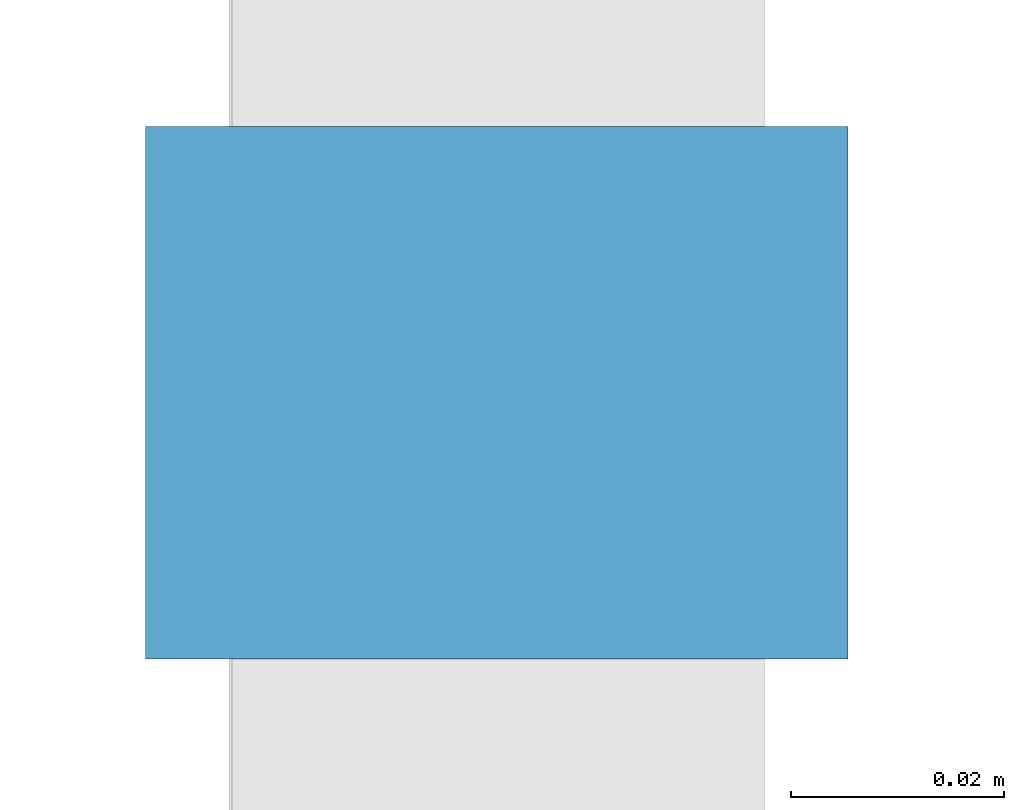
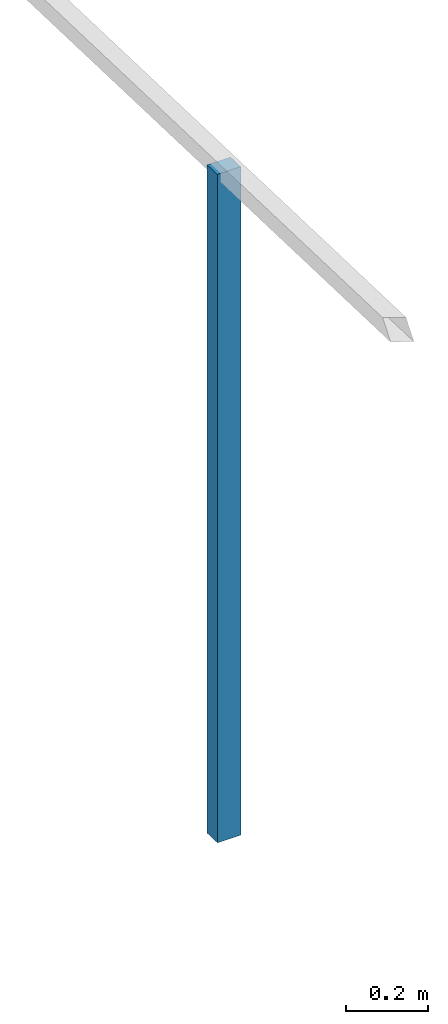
# One storey, part 46 of 91: 1 building element part, 1 element without a shape of its own.
"""IFC2X3 building model written with IfcOpenShell, lengths in metres."""

from ifc_helpers import new_model, entity, si_unit, converted_unit, derived_unit, money_unit, direction, frame, origin_with_axes, place, context, subcontext, project, spatial, faceted_brep, material, type_object, element, aggregate, save


model = new_model("IFC2X3")

# Units and contexts
model_context = context("Model", 3, precision=1e-05, world=origin_with_axes(), true_north=direction((0.0, 1.0)))
body_context = subcontext(model_context, "Body", "Model", "MODEL_VIEW")
ifc_project = project(units=[si_unit("LENGTHUNIT", "METRE"), si_unit("AREAUNIT", "SQUARE_METRE"), si_unit("VOLUMEUNIT", "CUBIC_METRE"), converted_unit("PLANEANGLEUNIT", "DEGREE", entity("IfcPlaneAngleMeasure", 0.0174532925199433), si_unit("PLANEANGLEUNIT", "RADIAN"), dimensions=[0, 0, 0, 0, 0, 0, 0]), money_unit("EUR"), converted_unit("TIMEUNIT", "Year", entity("IfcTimeMeasure", 31557600.0), si_unit("TIMEUNIT", "SECOND"), dimensions=[0, 0, 1, 0, 0, 0, 0]), si_unit("MASSUNIT", "GRAM", prefix="KILO"), si_unit("THERMODYNAMICTEMPERATUREUNIT", "DEGREE_CELSIUS"), si_unit("LUMINOUSINTENSITYUNIT", "LUMEN"), si_unit("ENERGYUNIT", "JOULE", prefix="MEGA"), derived_unit("THERMALCONDUCTANCEUNIT", [(si_unit("POWERUNIT", "WATT"), 1), (si_unit("LENGTHUNIT", "METRE"), -1), (si_unit("THERMODYNAMICTEMPERATUREUNIT", "KELVIN"), -1)]), derived_unit("SPECIFICHEATCAPACITYUNIT", [(si_unit("ENERGYUNIT", "JOULE"), 1), (si_unit("MASSUNIT", "GRAM", prefix="KILO"), -1), (si_unit("THERMODYNAMICTEMPERATUREUNIT", "KELVIN"), -1)]), derived_unit("MASSDENSITYUNIT", [(si_unit("MASSUNIT", "GRAM", prefix="KILO"), 1), (si_unit("VOLUMEUNIT", "CUBIC_METRE"), -1)])], contexts=[model_context])

# Site, building, storey
site_placement = place(None, origin_with_axes())
site = spatial("IfcSite", under=ifc_project, at=site_placement, Name="Site", CompositionType="ELEMENT")
building_placement = place(site_placement, origin_with_axes())
building = spatial("IfcBuilding", under=site, at=building_placement, Name="Bâtiment", CompositionType="ELEMENT")
storey_placement = place(building_placement, origin_with_axes())
storey = spatial("IfcBuildingStorey", under=building, at=storey_placement, Name="RDC", CompositionType="ELEMENT", Elevation=0.0)

# Proxy, building element part
building_element_proxy_type = type_object("IfcBuildingElementProxyType", Name="Type de garde-corps", PredefinedType="NOTDEFINED")
proxy_placement = place(storey_placement, frame((79.63337255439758, 3.614023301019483, -2.37161404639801), z_axis=(0.0, 0.0, 1.0), x_axis=(1.0, 0.0, 0.0)))
proxy = element("IfcBuildingElementProxy", 1, at=proxy_placement, inside=storey, type_object=building_element_proxy_type, Name="RAMPE-004")
ifc_material = material(Name="Acier Galva")
building_element_part_placement = place(proxy_placement, origin_with_axes())
building_element_part = element("IfcBuildingElementPart", 2, at=building_element_part_placement, material=ifc_material, Name="Acier Galva", context=body_context, shape_type="Brep", body=[
    faceted_brep([(-79.72708797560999, -26.54037103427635, 4.342524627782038), (-79.66108797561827, -26.54036998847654, 4.342524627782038), (-79.66108797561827, -26.54036998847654, 6.342524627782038), (-79.72708797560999, -26.54037103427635, 6.342524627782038), (-79.72708876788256, -26.49037103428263, 4.340903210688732), (-79.66108876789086, -26.49036998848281, 4.340903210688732), (-79.66108876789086, -26.49036998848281, 6.340903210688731), (-79.72708876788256, -26.49037103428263, 6.340903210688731)], [[[0, 1, 2, 3]], [[0, 4, 5, 1]], [[1, 5, 6, 2]], [[3, 2, 6, 7]], [[4, 0, 3, 7]], [[5, 4, 7, 6]]]),
])
aggregate(proxy, [building_element_part])

save(model, "model.ifc")
